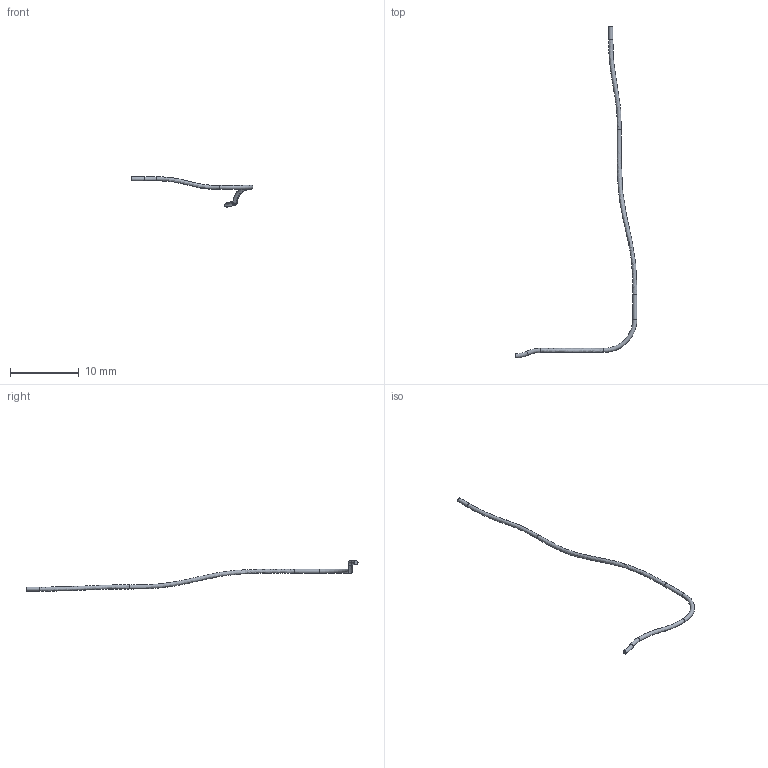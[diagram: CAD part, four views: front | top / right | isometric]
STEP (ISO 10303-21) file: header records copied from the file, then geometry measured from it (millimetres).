
FILE_DESCRIPTION(('FreeCAD Model'),'2;1');
FILE_NAME('Open CASCADE Shape Model','2026-11-12T12:41:45',('FreeCAD'),( 'FreeCAD'),'Open CASCADE STEP processor 7.8','FreeCAD','Unknown');
FILE_SCHEMA(('AUTOMOTIVE_DESIGN { 1 0 10303 214 1 1 1 1 }'));
Length unit declared in the file: millimetre
Products named in the file (1): Open CASCADE STEP translator 7.8 2
Bounding box: 17.73 x 48.34 x 4.41 mm (x, y, z)
Volume: 17.9 mm3; surface area: 120.1 mm2
Topology: 1 solids, 1 shells, 10 faces, 17 edges, 9 vertices
Faces by surface type: bspline 3, torus 3, cylinder 2, plane 2
Full cylindrical faces by diameter (mm): 0.6 x2
Entity records: 2756 total; most frequent: CARTESIAN_POINT 2576, DIRECTION 36, ORIENTED_EDGE 34, AXIS2_PLACEMENT_3D 17, EDGE_CURVE 17, ADVANCED_FACE 10, FACE_BOUND 10, EDGE_LOOP 10
